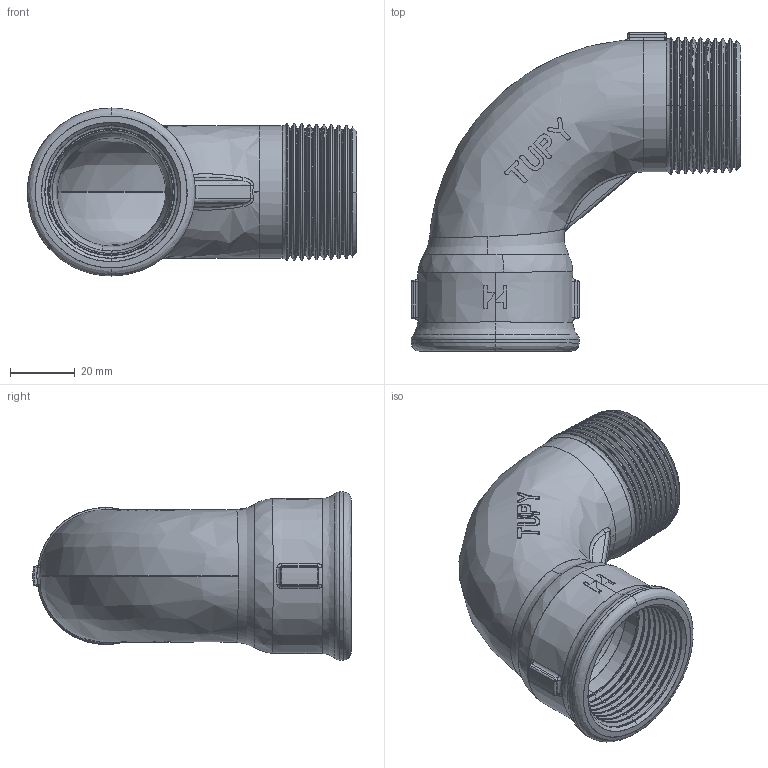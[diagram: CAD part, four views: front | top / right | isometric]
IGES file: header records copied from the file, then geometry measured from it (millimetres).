
Start section: SolidWorks IGES file using analytic representation for surfaces
Global section: file name: C:\Users\Joel Rosa\Desktop\Tubulação\12-22-OK\12-22-008.IGS; native system: SolidWorks 2011; preprocessor: SolidWorks 2011; author: Joel Rosa; date: 130205.210501; units: millimetre
Bounding box: 102 x 98.55 x 52 mm (x, y, z)
Surface area: 37100.4 mm2 (no closed solid volume)
Topology: 0 solids, 0 shells, 424 faces, 3529 edges, 3529 vertices
Faces by surface type: bspline 292, revolution 132
